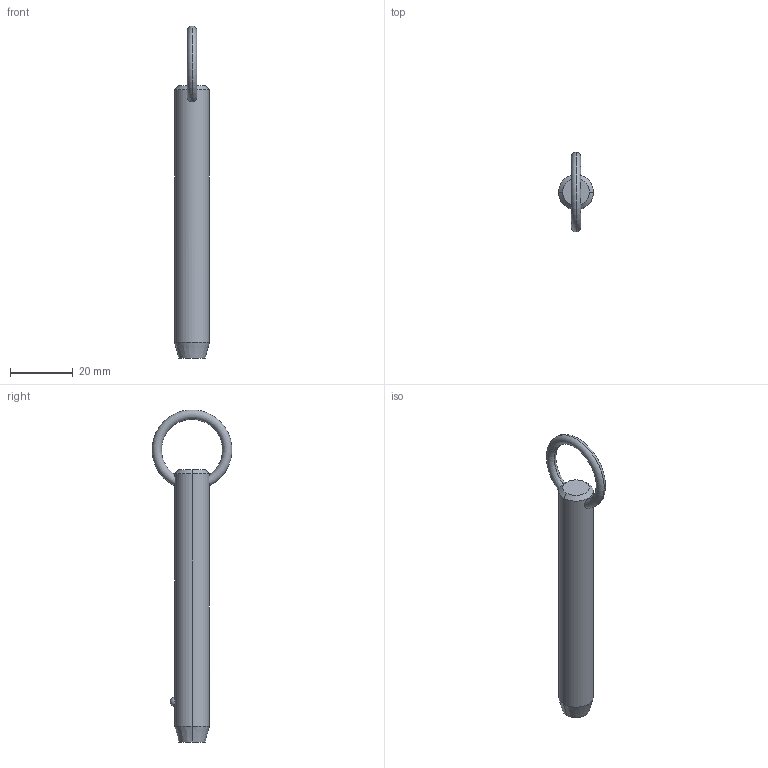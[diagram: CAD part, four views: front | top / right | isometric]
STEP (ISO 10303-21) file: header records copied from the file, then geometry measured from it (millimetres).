
FILE_DESCRIPTION (( 'STEP AP203' ), '1' );
FILE_NAME ('P1250.050-260.step', '2019-07-29T20:32:45', ( '' ), ( '' ), 'SwSTEP 2.0', 'SolidWorks 2017', '' );
FILE_SCHEMA (( 'CONFIG_CONTROL_DESIGN' ));
Length unit declared in the file: millimetre
Products named in the file (1): P1250.050-260
Bounding box: 11.1 x 25.32 x 105.55 mm (x, y, z)
Volume: 8662.9 mm3; surface area: 3672.5 mm2
Topology: 1 solids, 1 shells, 12 faces, 28 edges, 17 vertices
Faces by surface type: cone 4, torus 2, sphere 2, cylinder 2, plane 2
Entity records: 523 total; most frequent: CARTESIAN_POINT 190, DIRECTION 56, ORIENTED_EDGE 48, AXIS2_PLACEMENT_3D 25, EDGE_CURVE 24, VERTEX_POINT 15, EDGE_LOOP 15, CIRCLE 12
